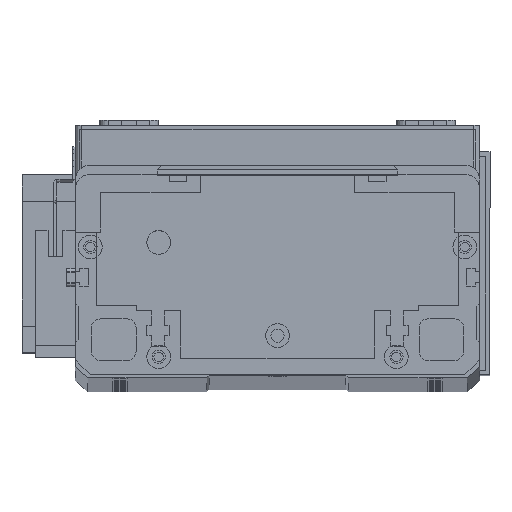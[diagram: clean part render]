
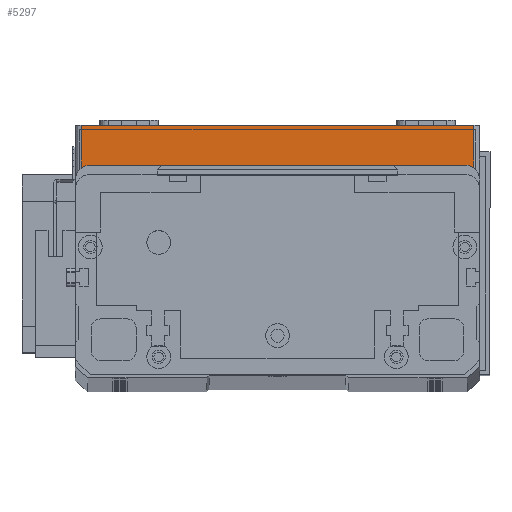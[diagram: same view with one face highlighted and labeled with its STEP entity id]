
A CAD part, top view. The second image highlights one B-rep face of the part: STEP entity #5297.
In plain terms, the highlighted planar face has unit normal (0, 0, 1) as drawn and (0, -1, 0) by its records, which use the part's own axes.
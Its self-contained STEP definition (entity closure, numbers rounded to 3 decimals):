
#905 = VERTEX_POINT ( 'NONE', #15011 ) ;
#3787 = EDGE_LOOP ( 'NONE', ( #12935, #13456, #11610, #22416 ) ) ;
#4024 = EDGE_CURVE ( 'NONE', #905, #10767, #16959, .T. ) ;
#4813 = VECTOR ( 'NONE', #29556, 1000. ) ;
#5297 = ADVANCED_FACE ( 'NONE', ( #10050 ), #6477, .F. ) ;
#6410 = CARTESIAN_POINT ( 'NONE',  ( 134., 0., 19.5 ) ) ;
#6477 = PLANE ( 'NONE',  #13457 ) ;
#6648 = EDGE_CURVE ( 'NONE', #24896, #905, #17804, .T. ) ;
#8881 = CARTESIAN_POINT ( 'NONE',  ( 2., 0., 19.5 ) ) ;
#10050 = FACE_OUTER_BOUND ( 'NONE', #3787, .T. ) ;
#10767 = VERTEX_POINT ( 'NONE', #21689 ) ;
#11475 = VECTOR ( 'NONE', #25503, 1000. ) ;
#11610 = ORIENTED_EDGE ( 'NONE', *, *, #4024, .T. ) ;
#12935 = ORIENTED_EDGE ( 'NONE', *, *, #24620, .F. ) ;
#13456 = ORIENTED_EDGE ( 'NONE', *, *, #6648, .T. ) ;
#13457 = AXIS2_PLACEMENT_3D ( 'NONE', #27863, #13657, #30230 ) ;
#13657 = DIRECTION ( 'NONE',  ( 0., 1., 0. ) ) ;
#15011 = CARTESIAN_POINT ( 'NONE',  ( 2., 0., 0. ) ) ;
#16959 = LINE ( 'NONE', #25826, #28824 ) ;
#17804 = LINE ( 'NONE', #8881, #11475 ) ;
#21182 = DIRECTION ( 'NONE',  ( 1., 0., 0. ) ) ;
#21689 = CARTESIAN_POINT ( 'NONE',  ( 134., 0., 0. ) ) ;
#22075 = CARTESIAN_POINT ( 'NONE',  ( 2., 0., 19.5 ) ) ;
#22416 = ORIENTED_EDGE ( 'NONE', *, *, #30834, .T. ) ;
#23323 = DIRECTION ( 'NONE',  ( 1., 0., 0. ) ) ;
#23806 = LINE ( 'NONE', #27184, #4813 ) ;
#23944 = VERTEX_POINT ( 'NONE', #6410 ) ;
#24620 = EDGE_CURVE ( 'NONE', #24896, #23944, #27485, .T. ) ;
#24896 = VERTEX_POINT ( 'NONE', #22075 ) ;
#25503 = DIRECTION ( 'NONE',  ( 0., 0., -1. ) ) ;
#25826 = CARTESIAN_POINT ( 'NONE',  ( 0., 0., 0. ) ) ;
#26727 = VECTOR ( 'NONE', #23323, 1000. ) ;
#27184 = CARTESIAN_POINT ( 'NONE',  ( 134., 0., 19.5 ) ) ;
#27485 = LINE ( 'NONE', #30336, #26727 ) ;
#27863 = CARTESIAN_POINT ( 'NONE',  ( 0., 0., 19.5 ) ) ;
#28824 = VECTOR ( 'NONE', #21182, 1000. ) ;
#29556 = DIRECTION ( 'NONE',  ( 0., 0., 1. ) ) ;
#30230 = DIRECTION ( 'NONE',  ( 0., 0., 1. ) ) ;
#30336 = CARTESIAN_POINT ( 'NONE',  ( 0., 0., 19.5 ) ) ;
#30834 = EDGE_CURVE ( 'NONE', #10767, #23944, #23806, .T. ) ;
